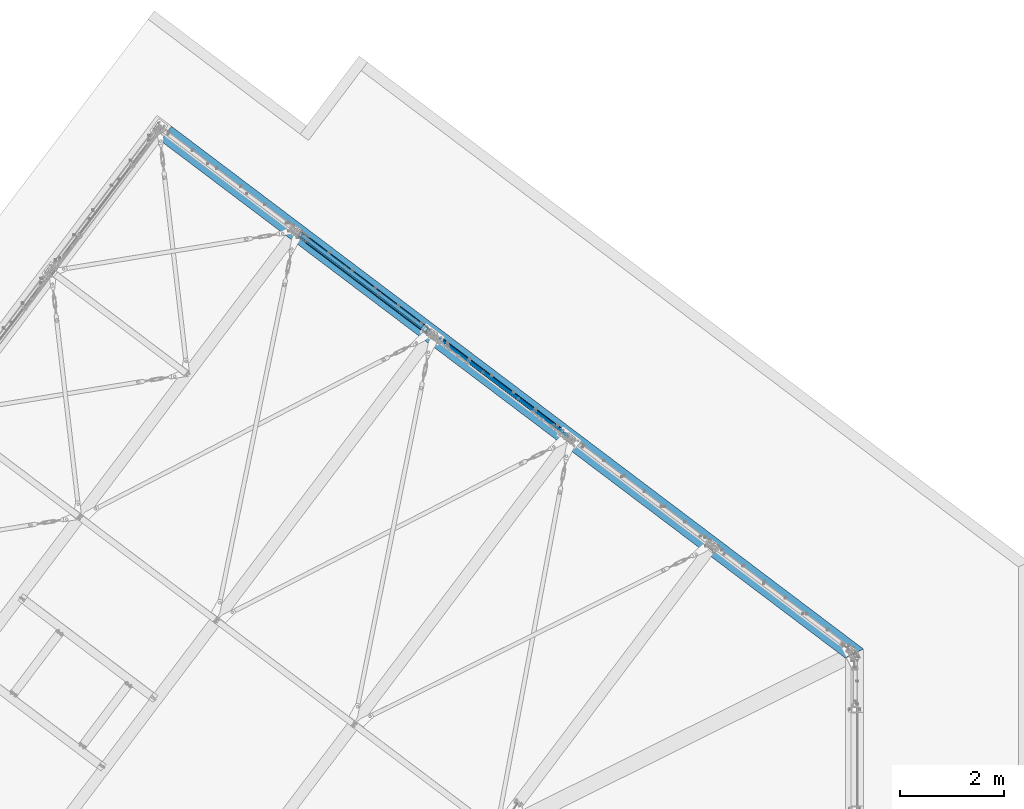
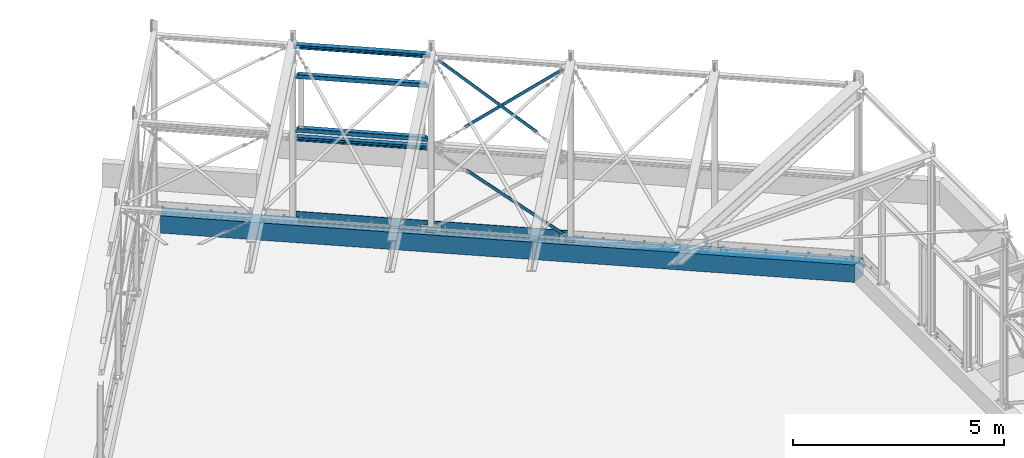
# One storey, part 24 of 476: 7 beams, 3 members, 64 openings.
"""IFC2X3 building model written with IfcOpenShell, lengths in millimetres."""

from ifc_helpers import new_model, entity, si_unit, converted_unit, frame, frame_2d, origin, origin_with_axes, origin_2d, origin_2d_with_axis, place, context, project, spatial, polyline, rectangle, hollow_rectangle, circle, i_section, l_section, outline, extrude, clip, halfspace, material, element, save


model = new_model("IFC2X3")

# Units and contexts
model_context = context("Model", 3, precision=1e-09, world=origin_with_axes())
ifc_project = project(units=[si_unit("LENGTHUNIT", "METRE", prefix="MILLI"), si_unit("AREAUNIT", "SQUARE_METRE"), si_unit("VOLUMEUNIT", "CUBIC_METRE"), converted_unit("PLANEANGLEUNIT", "DEGREE", entity("IfcPlaneAngleMeasure", 0.01745329), si_unit("PLANEANGLEUNIT", "RADIAN"), dimensions=[0, 0, 0, 0, 0, 0, 0])], contexts=[model_context])

# Site, building, storey
site_placement = place(None, origin_with_axes())
site = spatial("IfcSite", under=ifc_project, at=site_placement, Name="mKR Teilneubau & Sanierung BA1 - Ostfildern", CompositionType="ELEMENT")
building_placement = place(site_placement, origin_with_axes())
building = spatial("IfcBuilding", under=site, at=building_placement, Name="Struktur 1", CompositionType="ELEMENT")
storey_placement = place(building_placement, origin_with_axes())
storey = spatial("IfcBuildingStorey", under=building, at=storey_placement, Name="Default Storey", CompositionType="ELEMENT", Elevation=0.0)

# Beam, openings
ifc_material_1 = material(Name="S235JR")
beam_1_placement = place(None, frame((13923.801977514, 7060.092202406, 594.499999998), z_axis=(-0.797941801, 0.602734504, 0.0), x_axis=(-0.602734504, -0.797941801, 0.0)))
beam_1 = element("IfcBeam", 1, at=beam_1_placement, inside=storey, material=ifc_material_1, Name="-", ObjectType="-", context=model_context, shape_type="SweptSolid", body=[
    extrude(l_section(Depth=250.0, Width=90.0, Thickness=10.0, FilletRadius=15.0, EdgeRadius=7.5, at=frame_2d((30.5, 29.4))), origin(), (0.0, 0.0, -1.0), 3166.129146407),
])
opening_1_placement = place(beam_1_placement, frame((-115.7, -94.5, 0.0), z_axis=(1.0, 0.0, 0.0), x_axis=(0.0, 0.0, -1.0)))
element("IfcOpeningElement", 2, at=opening_1_placement, cuts=beam_1, ObjectType="Opening", context=model_context, shape_type="SweptSolid", body=[
    extrude(outline(polyline([(165.001, 120.001), (-50.001, 120.001), (-50.001, -50.001), (165.001, -50.001), (165.001, 120.001)])), origin(), (0.0, 0.0, 1.0), 290.2),
])
opening_2_placement = place(beam_1_placement, frame((-115.7, -94.5, 0.0), z_axis=(1.0, 0.0, 0.0), x_axis=(0.0, 0.0, -1.0)))
element("IfcOpeningElement", 3, at=opening_2_placement, cuts=beam_1, ObjectType="Opening", context=model_context, shape_type="SweptSolid", body=[
    extrude(outline(polyline([(2975.000398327, -50.001), (3211.150575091, -50.001), (3211.150575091, 120.001), (2975.000398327, 120.001), (2975.000398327, -50.001)])), origin(), (0.0, 0.0, 1.0), 290.2),
])
opening_3_placement = place(beam_1_placement, frame((34.4, -95.0, -1988.999699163), z_axis=(0.0, -1.0, 0.0), x_axis=(1.0, 0.0, 0.0)))
element("IfcOpeningElement", 4, at=opening_3_placement, cuts=beam_1, ObjectType="Opening", context=model_context, shape_type="SweptSolid", body=[
    extrude(circle(Radius=6.001, at=frame_2d((0.0, -6.001), x_axis=(1.0, 0.0))), origin(), (0.0, 0.0, -1.0), 11.0),
])
opening_4_placement = place(beam_1_placement, frame((34.4, -95.0, -1138.999699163), z_axis=(0.0, -1.0, 0.0), x_axis=(1.0, 0.0, 0.0)))
element("IfcOpeningElement", 5, at=opening_4_placement, cuts=beam_1, ObjectType="Opening", context=model_context, shape_type="SweptSolid", body=[
    extrude(circle(Radius=6.001, at=frame_2d((0.0, -6.001), x_axis=(1.0, 0.0))), origin(), (0.0, 0.0, -1.0), 11.0),
])
opening_5_placement = place(beam_1_placement, frame((34.4, -95.0, -2838.999699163), z_axis=(0.0, -1.0, 0.0), x_axis=(1.0, 0.0, 0.0)))
element("IfcOpeningElement", 6, at=opening_5_placement, cuts=beam_1, ObjectType="Opening", context=model_context, shape_type="SweptSolid", body=[
    extrude(circle(Radius=6.001, at=frame_2d((0.0, -6.001), x_axis=(1.0, 0.0))), origin(), (0.0, 0.0, -1.0), 11.0),
])
opening_6_placement = place(beam_1_placement, frame((34.4, -95.0, -288.999699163), z_axis=(0.0, -1.0, 0.0), x_axis=(1.0, 0.0, 0.0)))
element("IfcOpeningElement", 7, at=opening_6_placement, cuts=beam_1, ObjectType="Opening", context=model_context, shape_type="SweptSolid", body=[
    extrude(circle(Radius=6.001, at=frame_2d((0.0, -6.001), x_axis=(1.0, 0.0))), origin(), (0.0, 0.0, -1.0), 11.0),
])
opening_7_placement = place(beam_1_placement, frame((-5.1, 13.5, -1583.064573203), z_axis=(-1.0, 0.0, 0.0), x_axis=(0.0, 0.0, 1.0)))
element("IfcOpeningElement", 8, at=opening_7_placement, cuts=beam_1, ObjectType="Opening", context=model_context, shape_type="SweptSolid", body=[
    extrude(circle(Radius=7.001, at=frame_2d((265.0, 0.0), x_axis=(1.0, 0.0))), origin(), (0.0, 0.0, 1.0), 11.0),
])
opening_8_placement = place(beam_1_placement, frame((-5.1, 13.5, -1583.064573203), z_axis=(-1.0, 0.0, 0.0), x_axis=(0.0, 0.0, 1.0)))
element("IfcOpeningElement", 9, at=opening_8_placement, cuts=beam_1, ObjectType="Opening", context=model_context, shape_type="SweptSolid", body=[
    extrude(circle(Radius=7.001, at=frame_2d((-265.0, 0.0), x_axis=(1.0, 0.0))), origin(), (0.0, 0.0, 1.0), 11.0),
])
opening_9_placement = place(beam_1_placement, frame((-5.1, 13.5, -1583.064573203), z_axis=(-1.0, 0.0, 0.0), x_axis=(0.0, 0.0, 1.0)))
element("IfcOpeningElement", 10, at=opening_9_placement, cuts=beam_1, ObjectType="Opening", context=model_context, shape_type="SweptSolid", body=[
    extrude(circle(Radius=7.001, at=frame_2d((795.0, 0.0), x_axis=(1.0, 0.0))), origin(), (0.0, 0.0, 1.0), 11.0),
])
opening_10_placement = place(beam_1_placement, frame((-5.1, 13.5, -1583.064573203), z_axis=(-1.0, 0.0, 0.0), x_axis=(0.0, 0.0, 1.0)))
element("IfcOpeningElement", 11, at=opening_10_placement, cuts=beam_1, ObjectType="Opening", context=model_context, shape_type="SweptSolid", body=[
    extrude(circle(Radius=7.001, at=frame_2d((-795.0, 0.0), x_axis=(1.0, 0.0))), origin(), (0.0, 0.0, 1.0), 11.0),
])
opening_11_placement = place(beam_1_placement, frame((-5.1, 13.5, -1583.064573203), z_axis=(-1.0, 0.0, 0.0), x_axis=(0.0, 0.0, 1.0)))
element("IfcOpeningElement", 12, at=opening_11_placement, cuts=beam_1, ObjectType="Opening", context=model_context, shape_type="SweptSolid", body=[
    extrude(circle(Radius=7.001, at=frame_2d((1325.0, 0.0), x_axis=(1.0, 0.0))), origin(), (0.0, 0.0, 1.0), 11.0),
])
opening_12_placement = place(beam_1_placement, frame((-5.1, 13.5, -1583.064573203), z_axis=(-1.0, 0.0, 0.0), x_axis=(0.0, 0.0, 1.0)))
element("IfcOpeningElement", 13, at=opening_12_placement, cuts=beam_1, ObjectType="Opening", context=model_context, shape_type="SweptSolid", body=[
    extrude(circle(Radius=7.001, at=frame_2d((-1325.0, 0.0), x_axis=(1.0, 0.0))), origin(), (0.0, 0.0, 1.0), 11.0),
])

beam_2_placement = place(None, frame((13796.131289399, 7156.529723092, 594.499999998), z_axis=(-0.797941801, 0.602734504, 0.0), x_axis=(-0.602734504, -0.797941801, 0.0)))
beam_2 = element("IfcBeam", 14, at=beam_2_placement, inside=storey, material=ifc_material_1, Name="-", ObjectType="-", context=model_context, shape_type="SweptSolid", body=[
    extrude(l_section(Depth=250.0, Width=90.0, Thickness=10.0, FilletRadius=15.0, EdgeRadius=7.5, at=frame_2d((30.5, 29.4))), origin(), (0.0, 0.0, 1.0), 3140.000052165),
])
opening_13_placement = place(beam_2_placement, frame((-115.7, 25.501, 165.001), z_axis=(-1.0, 0.0, 0.0), x_axis=(0.0, 0.0, -1.0)))
element("IfcOpeningElement", 15, at=opening_13_placement, cuts=beam_2, ObjectType="Opening", context=model_context, shape_type="SweptSolid", body=[
    extrude(outline(polyline([(0.0, 0.0), (215.002, 0.0), (215.002, 170.002), (0.0, 170.002), (0.0, 0.0)])), origin(), (0.0, 0.0, -1.0), 290.2),
])
opening_14_placement = place(beam_2_placement, frame((-115.7, -144.501, 3074.999052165), z_axis=(-1.0, 0.0, 0.0), x_axis=(0.0, 0.0, 1.0)))
element("IfcOpeningElement", 16, at=opening_14_placement, cuts=beam_2, ObjectType="Opening", context=model_context, shape_type="SweptSolid", body=[
    extrude(outline(polyline([(0.0, 0.0), (136.151522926, 0.0), (136.151522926, 130.002), (0.0, 130.002), (0.0, 0.0)])), origin(), (0.0, 0.0, -1.0), 290.2),
])
opening_15_placement = place(beam_2_placement, frame((34.4, -95.0, 1620.000026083), z_axis=(0.0, 1.0, 0.0), x_axis=(0.0, 0.0, 1.0)))
element("IfcOpeningElement", 17, at=opening_15_placement, cuts=beam_2, ObjectType="Opening", context=model_context, shape_type="SweptSolid", body=[
    extrude(circle(Radius=6.001, at=frame_2d((425.0, 0.0), x_axis=(1.0, 0.0))), origin(), (0.0, 0.0, 1.0), 11.0),
])
opening_16_placement = place(beam_2_placement, frame((34.4, -95.0, 1620.000026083), z_axis=(0.0, 1.0, 0.0), x_axis=(0.0, 0.0, 1.0)))
element("IfcOpeningElement", 18, at=opening_16_placement, cuts=beam_2, ObjectType="Opening", context=model_context, shape_type="SweptSolid", body=[
    extrude(circle(Radius=6.001, at=frame_2d((-425.0, 0.0), x_axis=(1.0, 0.0))), origin(), (0.0, 0.0, 1.0), 11.0),
])
opening_17_placement = place(beam_2_placement, frame((34.4, -95.0, 1620.000026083), z_axis=(0.0, 1.0, 0.0), x_axis=(0.0, 0.0, 1.0)))
element("IfcOpeningElement", 19, at=opening_17_placement, cuts=beam_2, ObjectType="Opening", context=model_context, shape_type="SweptSolid", body=[
    extrude(circle(Radius=6.001, at=frame_2d((1275.0, 0.0), x_axis=(1.0, 0.0))), origin(), (0.0, 0.0, 1.0), 11.0),
])
opening_18_placement = place(beam_2_placement, frame((34.4, -95.0, 1620.000026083), z_axis=(0.0, 1.0, 0.0), x_axis=(0.0, 0.0, 1.0)))
element("IfcOpeningElement", 20, at=opening_18_placement, cuts=beam_2, ObjectType="Opening", context=model_context, shape_type="SweptSolid", body=[
    extrude(circle(Radius=6.001, at=frame_2d((-1275.0, 0.0), x_axis=(1.0, 0.0))), origin(), (0.0, 0.0, 1.0), 11.0),
])
opening_19_placement = place(beam_2_placement, frame((-5.1, 13.5, 1610.000026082), z_axis=(-1.0, 0.0, 0.0), x_axis=(0.0, 0.0, 1.0)))
element("IfcOpeningElement", 21, at=opening_19_placement, cuts=beam_2, ObjectType="Opening", context=model_context, shape_type="SweptSolid", body=[
    extrude(circle(Radius=7.001, at=frame_2d((280.0, 0.0), x_axis=(1.0, 0.0))), origin(), (0.0, 0.0, 1.0), 11.0),
])
opening_20_placement = place(beam_2_placement, frame((-5.1, 13.5, 1610.000026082), z_axis=(-1.0, 0.0, 0.0), x_axis=(0.0, 0.0, 1.0)))
element("IfcOpeningElement", 22, at=opening_20_placement, cuts=beam_2, ObjectType="Opening", context=model_context, shape_type="SweptSolid", body=[
    extrude(circle(Radius=7.001, at=frame_2d((-280.0, 0.0), x_axis=(1.0, 0.0))), origin(), (0.0, 0.0, 1.0), 11.0),
])
opening_21_placement = place(beam_2_placement, frame((-5.1, 13.5, 1610.000026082), z_axis=(-1.0, 0.0, 0.0), x_axis=(0.0, 0.0, 1.0)))
element("IfcOpeningElement", 23, at=opening_21_placement, cuts=beam_2, ObjectType="Opening", context=model_context, shape_type="SweptSolid", body=[
    extrude(circle(Radius=7.001, at=frame_2d((840.0, 0.0), x_axis=(1.0, 0.0))), origin(), (0.0, 0.0, 1.0), 11.0),
])
opening_22_placement = place(beam_2_placement, frame((-5.1, 13.5, 1610.000026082), z_axis=(-1.0, 0.0, 0.0), x_axis=(0.0, 0.0, 1.0)))
element("IfcOpeningElement", 24, at=opening_22_placement, cuts=beam_2, ObjectType="Opening", context=model_context, shape_type="SweptSolid", body=[
    extrude(circle(Radius=7.001, at=frame_2d((-840.0, 0.0), x_axis=(1.0, 0.0))), origin(), (0.0, 0.0, 1.0), 11.0),
])
opening_23_placement = place(beam_2_placement, frame((-5.1, 13.5, 1610.000026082), z_axis=(-1.0, 0.0, 0.0), x_axis=(0.0, 0.0, 1.0)))
element("IfcOpeningElement", 25, at=opening_23_placement, cuts=beam_2, ObjectType="Opening", context=model_context, shape_type="SweptSolid", body=[
    extrude(circle(Radius=7.001, at=frame_2d((1400.0, 0.0), x_axis=(1.0, 0.0))), origin(), (0.0, 0.0, 1.0), 11.0),
])
opening_24_placement = place(beam_2_placement, frame((-5.1, 13.5, 1610.000026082), z_axis=(-1.0, 0.0, 0.0), x_axis=(0.0, 0.0, 1.0)))
element("IfcOpeningElement", 26, at=opening_24_placement, cuts=beam_2, ObjectType="Opening", context=model_context, shape_type="SweptSolid", body=[
    extrude(circle(Radius=7.001, at=frame_2d((-1400.0, 0.0), x_axis=(1.0, 0.0))), origin(), (0.0, 0.0, 1.0), 11.0),
])

beam_3_placement = place(None, frame((13769.369883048, 7121.101125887, 4710.0), z_axis=(0.797941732, -0.602734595, 0.0), x_axis=(0.0, 0.0, -1.0)))
beam_3 = element("IfcBeam", 27, at=beam_3_placement, inside=storey, material=ifc_material_1, Name="-", ObjectType="-", context=model_context, shape_type="SweptSolid", body=[
    extrude(hollow_rectangle(XDim=120.0, YDim=120.0, WallThickness=4.0, InnerFilletRadius=4.0, OuterFilletRadius=8.0, at=origin_2d()), origin(), (0.0, 0.0, -1.0), 3140.000307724),
])
opening_25_placement = place(beam_3_placement, frame((-60.0, -160.1, 0.0), z_axis=(0.0, 1.0, 0.0), x_axis=(0.0, 0.0, -1.0)))
element("IfcOpeningElement", 28, at=opening_25_placement, cuts=beam_3, ObjectType="Opening", context=model_context, shape_type="SweptSolid", body=[
    extrude(outline(polyline([(-85.954657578, -145.956071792), (136.701937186, 76.700522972), (-59.244342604, 272.646802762), (-281.900937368, 49.990207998), (-85.954657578, -145.956071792)])), origin(), (0.0, 0.0, 1.0), 320.2),
])
opening_26_placement = place(beam_3_placement, frame((-60.0, -160.1, 0.0), z_axis=(0.0, 1.0, 0.0), x_axis=(0.0, 0.0, -1.0)))
element("IfcOpeningElement", 29, at=opening_26_placement, cuts=beam_3, ObjectType="Opening", context=model_context, shape_type="SweptSolid", body=[
    extrude(outline(polyline([(3421.901245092, 49.990207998), (3199.244650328, 272.646802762), (3003.298370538, 76.700522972), (3225.954965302, -145.956071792), (3421.901245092, 49.990207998)])), origin(), (0.0, 0.0, 1.0), 320.2),
])
opening_27_placement = place(beam_3_placement, frame((60.5, 0.0, -29.999), z_axis=(-1.0, 0.0, 0.0), x_axis=(0.0, 0.0, -1.0)))
element("IfcOpeningElement", 30, at=opening_27_placement, cuts=beam_3, ObjectType="Opening", context=model_context, shape_type="SweptSolid", body=[
    extrude(circle(Radius=7.001, at=frame_2d((0.0, 30.0), x_axis=(1.0, 0.0))), origin(), (0.0, 0.0, 1.0), 5.0),
])
opening_28_placement = place(beam_3_placement, frame((60.5, 0.0, -29.999), z_axis=(-1.0, 0.0, 0.0), x_axis=(0.0, 0.0, -1.0)))
element("IfcOpeningElement", 31, at=opening_28_placement, cuts=beam_3, ObjectType="Opening", context=model_context, shape_type="SweptSolid", body=[
    extrude(circle(Radius=7.001, at=frame_2d((0.0, -30.0), x_axis=(1.0, 0.0))), origin(), (0.0, 0.0, 1.0), 5.0),
])
opening_29_placement = place(beam_3_placement, frame((60.5, -30.0, -3117.002307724), z_axis=(1.0, 0.0, 0.0), x_axis=(0.0, 1.0, 0.0)))
element("IfcOpeningElement", 32, at=opening_29_placement, cuts=beam_3, ObjectType="Opening", context=model_context, shape_type="SweptSolid", body=[
    extrude(circle(Radius=7.001, at=frame_2d((0.0, 7.001), x_axis=(1.0, 0.0))), origin(), (0.0, 0.0, -1.0), 5.0),
])
opening_30_placement = place(beam_3_placement, frame((60.5, 30.0, -3117.002307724), z_axis=(1.0, 0.0, 0.0), x_axis=(0.0, 1.0, 0.0)))
element("IfcOpeningElement", 33, at=opening_30_placement, cuts=beam_3, ObjectType="Opening", context=model_context, shape_type="SweptSolid", body=[
    extrude(circle(Radius=7.001, at=frame_2d((0.0, 7.001), x_axis=(1.0, 0.0))), origin(), (0.0, 0.0, -1.0), 5.0),
])
opening_31_placement = place(beam_3_placement, frame((55.5, 0.0, -90.000072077), z_axis=(1.0, 0.0, 0.0), x_axis=(0.0, 0.0, -1.0)))
element("IfcOpeningElement", 34, at=opening_31_placement, cuts=beam_3, ObjectType="Opening", context=model_context, shape_type="SweptSolid", body=[
    extrude(circle(Radius=7.001, at=frame_2d((15.0, 45.0), x_axis=(1.0, 0.0))), origin(), (0.0, 0.0, 1.0), 5.0),
])
opening_32_placement = place(beam_3_placement, frame((55.5, 0.0, -90.000072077), z_axis=(1.0, 0.0, 0.0), x_axis=(0.0, 0.0, -1.0)))
element("IfcOpeningElement", 35, at=opening_32_placement, cuts=beam_3, ObjectType="Opening", context=model_context, shape_type="SweptSolid", body=[
    extrude(circle(Radius=7.001, at=frame_2d((-15.0, 45.0), x_axis=(1.0, 0.0))), origin(), (0.0, 0.0, 1.0), 5.0),
])
opening_33_placement = place(beam_3_placement, frame((55.5, 0.0, -90.000072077), z_axis=(1.0, 0.0, 0.0), x_axis=(0.0, 0.0, -1.0)))
element("IfcOpeningElement", 36, at=opening_33_placement, cuts=beam_3, ObjectType="Opening", context=model_context, shape_type="SweptSolid", body=[
    extrude(circle(Radius=7.001, at=frame_2d((15.0, -45.0), x_axis=(1.0, 0.0))), origin(), (0.0, 0.0, 1.0), 5.0),
])
opening_34_placement = place(beam_3_placement, frame((55.5, 0.0, -90.000072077), z_axis=(1.0, 0.0, 0.0), x_axis=(0.0, 0.0, -1.0)))
element("IfcOpeningElement", 37, at=opening_34_placement, cuts=beam_3, ObjectType="Opening", context=model_context, shape_type="SweptSolid", body=[
    extrude(circle(Radius=7.001, at=frame_2d((-15.0, -45.0), x_axis=(1.0, 0.0))), origin(), (0.0, 0.0, 1.0), 5.0),
])
opening_35_placement = place(beam_3_placement, frame((55.5, 0.0, -3010.000072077), z_axis=(1.0, 0.0, 0.0), x_axis=(0.0, 0.0, -1.0)))
element("IfcOpeningElement", 38, at=opening_35_placement, cuts=beam_3, ObjectType="Opening", context=model_context, shape_type="SweptSolid", body=[
    extrude(circle(Radius=7.001, at=frame_2d((45.0, 45.0), x_axis=(1.0, 0.0))), origin(), (0.0, 0.0, 1.0), 5.0),
])
opening_36_placement = place(beam_3_placement, frame((55.5, 0.0, -3010.000072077), z_axis=(1.0, 0.0, 0.0), x_axis=(0.0, 0.0, -1.0)))
element("IfcOpeningElement", 39, at=opening_36_placement, cuts=beam_3, ObjectType="Opening", context=model_context, shape_type="SweptSolid", body=[
    extrude(circle(Radius=7.001, at=frame_2d((-45.0, 45.0), x_axis=(1.0, 0.0))), origin(), (0.0, 0.0, 1.0), 5.0),
])
opening_37_placement = place(beam_3_placement, frame((55.5, 0.0, -3010.000072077), z_axis=(1.0, 0.0, 0.0), x_axis=(0.0, 0.0, -1.0)))
element("IfcOpeningElement", 40, at=opening_37_placement, cuts=beam_3, ObjectType="Opening", context=model_context, shape_type="SweptSolid", body=[
    extrude(circle(Radius=7.001, at=frame_2d((45.0, -45.0), x_axis=(1.0, 0.0))), origin(), (0.0, 0.0, 1.0), 5.0),
])
opening_38_placement = place(beam_3_placement, frame((55.5, 0.0, -3010.000072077), z_axis=(1.0, 0.0, 0.0), x_axis=(0.0, 0.0, -1.0)))
element("IfcOpeningElement", 41, at=opening_38_placement, cuts=beam_3, ObjectType="Opening", context=model_context, shape_type="SweptSolid", body=[
    extrude(circle(Radius=7.001, at=frame_2d((-45.0, -45.0), x_axis=(1.0, 0.0))), origin(), (0.0, 0.0, 1.0), 5.0),
])

# Member, openings
member_1_placement = place(None, frame((13967.03679054, 6982.442761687, 5442.990911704), z_axis=(-0.623171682, 0.470719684, 0.624563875), x_axis=(-0.602734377, -0.797941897, 0.0)))
member_1 = element("IfcMember", 42, at=member_1_placement, inside=storey, material=ifc_material_1, Name="-", ObjectType="-", context=model_context, shape_type="SweptSolid", body=[
    extrude(rectangle(XDim=15.0, YDim=80.0, at=origin_2d()), origin(), (0.0, 0.0, -1.0), 3020.874163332),
])
opening_39_placement = place(member_1_placement, frame((8.000004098, 0.001192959, -60.000003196), z_axis=(-1.0, 1.22e-07, -2.51e-07), x_axis=(2.72e-07, 0.624563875, -0.78097373)))
element("IfcOpeningElement", 43, at=opening_39_placement, cuts=member_1, ObjectType="Opening", context=model_context, shape_type="SweptSolid", body=[
    extrude(circle(Radius=16.001, at=origin_2d_with_axis()), origin(), (0.0, 0.0, 1.0), 16.000008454),
])
opening_40_placement = place(member_1_placement, frame((8.0, 0.0, -2960.874163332), z_axis=(-1.0, 0.0, 0.0), x_axis=(0.0, 0.0, -1.0)))
element("IfcOpeningElement", 44, at=opening_40_placement, cuts=member_1, ObjectType="Opening", context=model_context, shape_type="SweptSolid", body=[
    extrude(circle(Radius=16.001, at=origin_2d_with_axis()), origin(), (0.0, 0.0, 1.0), 16.0),
])

member_2_placement = place(None, frame((14481.154165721, 6594.099097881, 3556.262251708), z_axis=(-0.623171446, 0.470719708, -0.624564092), x_axis=(-0.602734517, -0.797941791, 0.0)))
member_2 = element("IfcMember", 45, at=member_2_placement, inside=storey, material=ifc_material_1, Name="-", ObjectType="-", context=model_context, shape_type="SweptSolid", body=[
    extrude(rectangle(XDim=15.0, YDim=80.0, at=origin_2d()), origin(), (0.0, 0.0, -1.0), 3020.874173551),
])
opening_41_placement = place(member_2_placement, frame((8.000003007, -9.993576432, -2973.370545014), z_axis=(1.0, 0.0, 0.0), x_axis=(0.0, 1.0, 0.0)))
element("IfcOpeningElement", 46, at=opening_41_placement, cuts=member_2, ObjectType="Opening", context=model_context, shape_type="SweptSolid", body=[
    extrude(circle(Radius=16.001, at=frame_2d((9.993650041, 12.496357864), x_axis=(1.0, 0.0))), origin(), (0.0, 0.0, -1.0), 16.000003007),
])
opening_42_placement = place(member_2_placement, frame((8.0, 0.0, -60.000012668), z_axis=(-1.0, 0.0, 0.0), x_axis=(0.0, 0.0, 1.0)))
element("IfcOpeningElement", 47, at=opening_42_placement, cuts=member_2, ObjectType="Opening", context=model_context, shape_type="SweptSolid", body=[
    extrude(circle(Radius=16.001, at=origin_2d_with_axis()), origin(), (0.0, 0.0, 1.0), 16.0),
])

member_3_placement = place(None, frame((16429.39527933, 5122.472797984, 601.177729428), z_axis=(0.650125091, -0.491079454, -0.579808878), x_axis=(-0.602734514, -0.797941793, 0.0)))
member_3 = element("IfcMember", 48, at=member_3_placement, inside=storey, material=ifc_material_1, Name="-", ObjectType="-", context=model_context, shape_type="SweptSolid", body=[
    extrude(rectangle(XDim=15.0, YDim=80.0, at=origin_2d()), origin(), (0.0, 0.0, -1.0), 2965.291264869),
])
opening_43_placement = place(member_3_placement, frame((8.000003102, -9.277521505, -46.963140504), z_axis=(1.0, 0.0, 0.0), x_axis=(0.0, 1.0, 0.0)))
element("IfcOpeningElement", 49, at=opening_43_placement, cuts=member_3, ObjectType="Opening", context=model_context, shape_type="SweptSolid", body=[
    extrude(circle(Radius=16.001, at=frame_2d((9.277521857, -13.036855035), x_axis=(1.0, 0.0))), origin(), (0.0, 0.0, -1.0), 16.000003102),
])
opening_44_placement = place(member_3_placement, frame((8.0, 1.099e-06, -2905.291273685), z_axis=(-1.0, 0.0, 0.0), x_axis=(0.0, 0.0, -1.0)))
element("IfcOpeningElement", 50, at=opening_44_placement, cuts=member_3, ObjectType="Opening", context=model_context, shape_type="SweptSolid", body=[
    extrude(circle(Radius=16.001, at=origin_2d_with_axis()), origin(), (0.0, 0.0, 1.0), 16.0),
])

# Beam
beam_4_placement = place(None, frame((11130.042685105, 9106.600919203, 2912.000000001), z_axis=(-0.797941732, 0.602734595, 0.0), x_axis=(-0.602734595, -0.797941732, 0.0)))
element("IfcBeam", 51, at=beam_4_placement, inside=storey, material=ifc_material_1, Name="-", ObjectType="-", context=model_context, shape_type="Clipping", body=[
    clip(clip(extrude(i_section(OverallWidth=120.0, OverallDepth=114.0, WebThickness=5.0, FlangeThickness=8.0, FilletRadius=12.0, at=origin_2d()), origin(), (0.0, 0.0, -1.0), 3465.517422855), halfspace(frame((13974.998275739, -2912.000000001, -182.76126912), z_axis=(-1.13e-07, 0.0, -1.0), x_axis=(-1.0, 0.0, 1.13e-07)), True)), halfspace(frame((13974.997924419, -2912.000000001, -3282.759321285), z_axis=(1.13e-07, 0.0, 1.0), x_axis=(1.0, 0.0, -1.13e-07)), True)),
])

# Beam, openings
beam_5_placement = place(None, frame((11130.042739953, 9106.600878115, 5571.987182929), z_axis=(-0.797941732, 0.602734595, 0.0), x_axis=(-0.602462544, -0.797581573, -0.030041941)))
beam_5 = element("IfcBeam", 52, at=beam_5_placement, inside=storey, material=ifc_material_1, Name="-", ObjectType="-", context=model_context, shape_type="Clipping", body=[
    clip(clip(extrude(i_section(OverallWidth=120.0, OverallDepth=114.0, WebThickness=5.0, FlangeThickness=8.0, FilletRadius=12.0, at=origin_2d()), origin(), (0.0, 0.0, -1.0), 3465.517426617), halfspace(frame((14136.083829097, -5149.636124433, -100.76121887), z_axis=(-1.13e-07, 0.0, -1.0), x_axis=(-0.999548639, -0.030041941, 1.13e-07)), True)), halfspace(frame((14136.083459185, -5149.636124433, -3364.759271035), z_axis=(1.13e-07, 0.0, 1.0), x_axis=(0.999548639, 0.030041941, -1.13e-07)), True)),
])
opening_45_placement = place(beam_5_placement, frame((0.0, -1.332627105, -82.758685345), z_axis=(0.0, 1.0, 0.0), x_axis=(-1.13e-07, 0.0, -1.0)))
element("IfcOpeningElement", 53, at=opening_45_placement, cuts=beam_5, ObjectType="Opening", context=model_context, shape_type="SweptSolid", body=[
    extrude(outline(polyline([(79.99993147, 44.999990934), (79.99993147, 75.000004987), (17.99993147, 75.000004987), (17.99993147, 44.999990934), (79.99993147, 44.999990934)])), origin(), (0.0, 0.0, 1.0), 59.665254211),
])
opening_46_placement = place(beam_5_placement, frame((0.0, -58.353598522, -82.758685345), z_axis=(0.0, 1.0, 0.0), x_axis=(-1.13e-07, 0.0, -1.0)))
element("IfcOpeningElement", 54, at=opening_46_placement, cuts=beam_5, ObjectType="Opening", context=model_context, shape_type="SweptSolid", body=[
    extrude(outline(polyline([(79.99993147, 44.999990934), (79.99993147, 75.000004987), (17.99993147, 75.000004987), (17.99993147, 44.999990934), (79.99993147, 44.999990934)])), origin(), (0.0, 0.0, 1.0), 59.707197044),
])
opening_47_placement = place(beam_5_placement, frame((0.0, 58.353598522, -3382.758741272), z_axis=(0.0, -1.0, 0.0), x_axis=(1.13e-07, 0.0, 1.0)))
element("IfcOpeningElement", 55, at=opening_47_placement, cuts=beam_5, ObjectType="Opening", context=model_context, shape_type="SweptSolid", body=[
    extrude(outline(polyline([(80.000072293, 45.000009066), (80.000072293, 75.000009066), (18.000072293, 75.000009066), (18.000072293, 45.000009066), (80.000072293, 45.000009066)])), origin(), (0.0, 0.0, 1.0), 59.707197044),
])
opening_48_placement = place(beam_5_placement, frame((0.0, 1.332627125, -3382.758741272), z_axis=(0.0, -1.0, 0.0), x_axis=(1.13e-07, 0.0, 1.0)))
element("IfcOpeningElement", 56, at=opening_48_placement, cuts=beam_5, ObjectType="Opening", context=model_context, shape_type="SweptSolid", body=[
    extrude(outline(polyline([(80.000072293, 45.000009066), (80.000072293, 75.000009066), (18.000072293, 75.000009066), (18.000072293, 45.000009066), (80.000072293, 45.000009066)])), origin(), (0.0, 0.0, 1.0), 59.665254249),
])

ifc_material_2 = material(Name="C25/30")
beam_6_placement = place(None, frame((8702.513454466, 10940.265254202, 250.0), z_axis=(-0.797941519, 0.602734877, 0.0), x_axis=(-0.602734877, -0.797941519, 0.0)))
beam_6 = element("IfcBeam", 57, at=beam_6_placement, inside=storey, material=ifc_material_2, Name="-", ObjectType="-", context=model_context, shape_type="Clipping", body=[
    clip(extrude(outline(polyline([(175.0, -250.0), (175.0, 250.0), (-175.0, 250.0), (-175.0, -250.0), (175.0, -250.0)])), origin(), (0.0, 0.0, -1.0), 17154.674659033), halfspace(frame((17970.304063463, -250.0, -7674.897478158), z_axis=(-0.445682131, 0.0, 0.895191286), x_axis=(0.895191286, 0.0, 0.445682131)), True)),
])
opening_49_placement = place(beam_6_placement, frame((175.0, 50.0, -16534.512354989), z_axis=(0.0, 1.0, 0.0), x_axis=(-4.61e-07, 0.0, -1.0)))
element("IfcOpeningElement", 58, at=opening_49_placement, cuts=beam_6, ObjectType="Opening", context=model_context, shape_type="SweptSolid", body=[
    extrude(outline(polyline([(-6929.51558057, 100.005171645), (-6689.513580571, 100.005171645), (-6689.513580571, 250.007171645), (-6929.51558057, 250.007171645), (-6929.51558057, 100.005171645)])), origin(), (0.0, 0.0, 1.0), 200.0),
])
opening_50_placement = place(beam_6_placement, frame((175.0, 50.0, 0.0), z_axis=(0.0, 1.0, 0.0), x_axis=(-4.61e-07, 0.0, -1.0)))
element("IfcOpeningElement", 59, at=opening_50_placement, cuts=beam_6, ObjectType="Opening", context=model_context, shape_type="SweptSolid", body=[
    extrude(outline(polyline([(6304.997627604, 99.997532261), (6544.999627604, 99.997532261), (6544.999627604, 249.999532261), (6304.997627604, 249.999532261), (6304.997627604, 99.997532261)])), origin(), (0.0, 0.0, 1.0), 300.1),
])

beam_7_placement = place(None, frame((13769.369883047, 7121.101125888, 3160.0), z_axis=(0.797941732, -0.602734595, 0.0), x_axis=(0.0, 0.0, -1.0)))
beam_7 = element("IfcBeam", 60, at=beam_7_placement, inside=storey, material=ifc_material_1, Name="-", ObjectType="-", context=model_context, shape_type="SweptSolid", body=[
    extrude(hollow_rectangle(XDim=120.0, YDim=120.0, WallThickness=4.0, InnerFilletRadius=4.0, OuterFilletRadius=8.0, at=origin_2d()), origin(), (0.0, 0.0, -1.0), 3140.000307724),
])
opening_51_placement = place(beam_7_placement, frame((-60.0, -160.1, 0.0), z_axis=(0.0, 1.0, 0.0), x_axis=(0.0, 0.0, -1.0)))
element("IfcOpeningElement", 61, at=opening_51_placement, cuts=beam_7, ObjectType="Opening", context=model_context, shape_type="SweptSolid", body=[
    extrude(outline(polyline([(-85.954657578, -145.956071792), (136.701937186, 76.700522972), (-59.244342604, 272.646802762), (-281.900937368, 49.990207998), (-85.954657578, -145.956071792)])), origin(), (0.0, 0.0, 1.0), 320.2),
])
opening_52_placement = place(beam_7_placement, frame((-60.0, -160.1, 0.0), z_axis=(0.0, 1.0, 0.0), x_axis=(0.0, 0.0, -1.0)))
element("IfcOpeningElement", 62, at=opening_52_placement, cuts=beam_7, ObjectType="Opening", context=model_context, shape_type="SweptSolid", body=[
    extrude(outline(polyline([(3421.901245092, 49.990207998), (3199.244650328, 272.646802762), (3003.298370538, 76.700522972), (3225.954965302, -145.956071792), (3421.901245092, 49.990207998)])), origin(), (0.0, 0.0, 1.0), 320.2),
])
opening_53_placement = place(beam_7_placement, frame((60.5, 0.0, -29.999), z_axis=(-1.0, 0.0, 0.0), x_axis=(0.0, 0.0, -1.0)))
element("IfcOpeningElement", 63, at=opening_53_placement, cuts=beam_7, ObjectType="Opening", context=model_context, shape_type="SweptSolid", body=[
    extrude(circle(Radius=7.001, at=frame_2d((0.0, 30.0), x_axis=(1.0, 0.0))), origin(), (0.0, 0.0, 1.0), 5.0),
])
opening_54_placement = place(beam_7_placement, frame((60.5, 0.0, -29.999), z_axis=(-1.0, 0.0, 0.0), x_axis=(0.0, 0.0, -1.0)))
element("IfcOpeningElement", 64, at=opening_54_placement, cuts=beam_7, ObjectType="Opening", context=model_context, shape_type="SweptSolid", body=[
    extrude(circle(Radius=7.001, at=frame_2d((0.0, -30.0), x_axis=(1.0, 0.0))), origin(), (0.0, 0.0, 1.0), 5.0),
])
opening_55_placement = place(beam_7_placement, frame((60.5, -30.0, -3117.002307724), z_axis=(1.0, 0.0, 0.0), x_axis=(0.0, 1.0, 0.0)))
element("IfcOpeningElement", 65, at=opening_55_placement, cuts=beam_7, ObjectType="Opening", context=model_context, shape_type="SweptSolid", body=[
    extrude(circle(Radius=7.001, at=frame_2d((0.0, 7.001), x_axis=(1.0, 0.0))), origin(), (0.0, 0.0, -1.0), 5.0),
])
opening_56_placement = place(beam_7_placement, frame((60.5, 30.0, -3117.002307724), z_axis=(1.0, 0.0, 0.0), x_axis=(0.0, 1.0, 0.0)))
element("IfcOpeningElement", 66, at=opening_56_placement, cuts=beam_7, ObjectType="Opening", context=model_context, shape_type="SweptSolid", body=[
    extrude(circle(Radius=7.001, at=frame_2d((0.0, 7.001), x_axis=(1.0, 0.0))), origin(), (0.0, 0.0, -1.0), 5.0),
])
opening_57_placement = place(beam_7_placement, frame((-55.5, 0.0, -3010.000072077), z_axis=(-1.0, 0.0, 0.0), x_axis=(0.0, 0.0, -1.0)))
element("IfcOpeningElement", 67, at=opening_57_placement, cuts=beam_7, ObjectType="Opening", context=model_context, shape_type="SweptSolid", body=[
    extrude(circle(Radius=7.001, at=frame_2d((45.0, 45.0), x_axis=(1.0, 0.0))), origin(), (0.0, 0.0, 1.0), 5.0),
])
opening_58_placement = place(beam_7_placement, frame((-55.5, 0.0, -3010.000072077), z_axis=(-1.0, 0.0, 0.0), x_axis=(0.0, 0.0, -1.0)))
element("IfcOpeningElement", 68, at=opening_58_placement, cuts=beam_7, ObjectType="Opening", context=model_context, shape_type="SweptSolid", body=[
    extrude(circle(Radius=7.001, at=frame_2d((-45.0, 45.0), x_axis=(1.0, 0.0))), origin(), (0.0, 0.0, 1.0), 5.0),
])
opening_59_placement = place(beam_7_placement, frame((-55.5, 0.0, -3010.000072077), z_axis=(-1.0, 0.0, 0.0), x_axis=(0.0, 0.0, -1.0)))
element("IfcOpeningElement", 69, at=opening_59_placement, cuts=beam_7, ObjectType="Opening", context=model_context, shape_type="SweptSolid", body=[
    extrude(circle(Radius=7.001, at=frame_2d((45.0, -45.0), x_axis=(1.0, 0.0))), origin(), (0.0, 0.0, 1.0), 5.0),
])
opening_60_placement = place(beam_7_placement, frame((-55.5, 0.0, -3010.000072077), z_axis=(-1.0, 0.0, 0.0), x_axis=(0.0, 0.0, -1.0)))
element("IfcOpeningElement", 70, at=opening_60_placement, cuts=beam_7, ObjectType="Opening", context=model_context, shape_type="SweptSolid", body=[
    extrude(circle(Radius=7.001, at=frame_2d((-45.0, -45.0), x_axis=(1.0, 0.0))), origin(), (0.0, 0.0, 1.0), 5.0),
])
opening_61_placement = place(beam_7_placement, frame((-55.5, 0.0, -90.000743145), z_axis=(-1.0, 0.0, 0.0), x_axis=(0.0, 0.0, -1.0)))
element("IfcOpeningElement", 71, at=opening_61_placement, cuts=beam_7, ObjectType="Opening", context=model_context, shape_type="SweptSolid", body=[
    extrude(circle(Radius=7.001, at=frame_2d((15.0, 45.0), x_axis=(1.0, 0.0))), origin(), (0.0, 0.0, 1.0), 5.0),
])
opening_62_placement = place(beam_7_placement, frame((-55.5, 0.0, -90.000743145), z_axis=(-1.0, 0.0, 0.0), x_axis=(0.0, 0.0, -1.0)))
element("IfcOpeningElement", 72, at=opening_62_placement, cuts=beam_7, ObjectType="Opening", context=model_context, shape_type="SweptSolid", body=[
    extrude(circle(Radius=7.001, at=frame_2d((-15.0, 45.0), x_axis=(1.0, 0.0))), origin(), (0.0, 0.0, 1.0), 5.0),
])
opening_63_placement = place(beam_7_placement, frame((-55.5, 0.0, -90.000743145), z_axis=(-1.0, 0.0, 0.0), x_axis=(0.0, 0.0, -1.0)))
element("IfcOpeningElement", 73, at=opening_63_placement, cuts=beam_7, ObjectType="Opening", context=model_context, shape_type="SweptSolid", body=[
    extrude(circle(Radius=7.001, at=frame_2d((15.0, -45.0), x_axis=(1.0, 0.0))), origin(), (0.0, 0.0, 1.0), 5.0),
])
opening_64_placement = place(beam_7_placement, frame((-55.5, 0.0, -90.000743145), z_axis=(-1.0, 0.0, 0.0), x_axis=(0.0, 0.0, -1.0)))
element("IfcOpeningElement", 74, at=opening_64_placement, cuts=beam_7, ObjectType="Opening", context=model_context, shape_type="SweptSolid", body=[
    extrude(circle(Radius=7.001, at=frame_2d((-15.0, -45.0), x_axis=(1.0, 0.0))), origin(), (0.0, 0.0, 1.0), 5.0),
])

save(model, "model.ifc")
